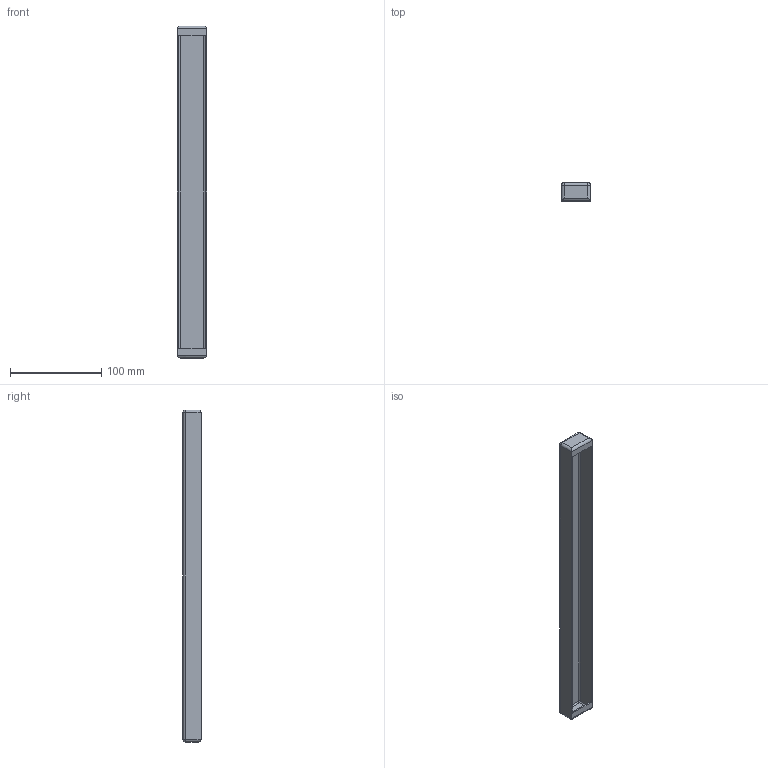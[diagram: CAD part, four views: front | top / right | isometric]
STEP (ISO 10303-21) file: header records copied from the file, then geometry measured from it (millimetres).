
FILE_DESCRIPTION (( 'STEP AP203' ), '1' );
FILE_NAME ('GB 40 R Ïëàíêà çàùèòíàÿ.STEP', '2013-01-09T15:49:22', ( 'System' ), ( '' ), 'SwSTEP 2.0', 'SolidWorks 2012', '' );
FILE_SCHEMA (( 'CONFIG_CONTROL_DESIGN' ));
Length unit declared in the file: millimetre
Products named in the file (1): GB 40 R Ïëàíêà çàùèòíàÿ
Bounding box: 32 x 20 x 364 mm (x, y, z)
Volume: 38677.5 mm3; surface area: 52699.8 mm2
Topology: 1 solids, 1 shells, 43 faces, 96 edges, 48 vertices
Faces by surface type: cylinder 20, plane 15, sphere 8
Entity records: 1167 total; most frequent: CARTESIAN_POINT 204, DIRECTION 192, ORIENTED_EDGE 176, EDGE_CURVE 88, AXIS2_PLACEMENT_3D 68, VECTOR 56, LINE 56, VERTEX_POINT 48
